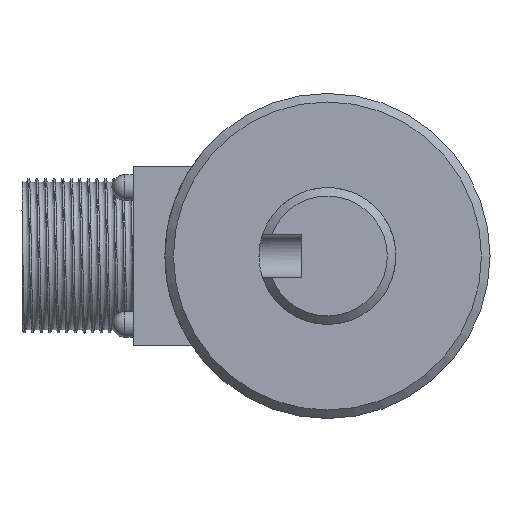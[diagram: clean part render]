
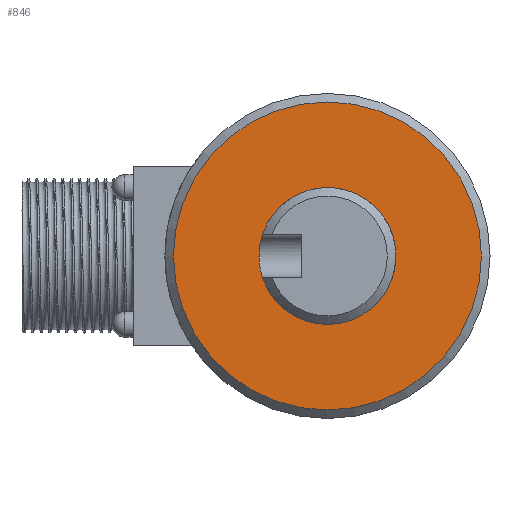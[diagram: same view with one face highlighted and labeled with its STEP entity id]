
A CAD part, left-side view. The second image highlights one B-rep face of the part: STEP entity #846.
In plain terms, the highlighted planar face has unit normal (-1, 0, 0).
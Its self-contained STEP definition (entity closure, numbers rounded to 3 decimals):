
#31=PLANE('',#944);
#48=FACE_BOUND('',#140,.T.);
#89=FACE_OUTER_BOUND('',#139,.T.);
#139=EDGE_LOOP('',(#633));
#140=EDGE_LOOP('',(#634));
#183=CIRCLE('',#934,18.);
#184=CIRCLE('',#936,8.);
#373=VERTEX_POINT('',#2221);
#374=VERTEX_POINT('',#2225);
#470=EDGE_CURVE('',#373,#373,#183,.T.);
#471=EDGE_CURVE('',#374,#374,#184,.T.);
#633=ORIENTED_EDGE('',*,*,#470,.T.);
#634=ORIENTED_EDGE('',*,*,#471,.T.);
#846=ADVANCED_FACE('',(#89,#48),#31,.F.);
#934=AXIS2_PLACEMENT_3D('',#2223,#1078,#1079);
#936=AXIS2_PLACEMENT_3D('',#2226,#1082,#1083);
#944=AXIS2_PLACEMENT_3D('',#2271,#1102,#1103);
#1078=DIRECTION('center_axis',(-1.,0.,0.));
#1079=DIRECTION('ref_axis',(0.,0.,-1.));
#1082=DIRECTION('center_axis',(1.,0.,0.));
#1083=DIRECTION('ref_axis',(0.,0.,-1.));
#1102=DIRECTION('center_axis',(1.,0.,0.));
#1103=DIRECTION('ref_axis',(0.,0.,-1.));
#2221=CARTESIAN_POINT('',(-18.,0.,18.));
#2223=CARTESIAN_POINT('Origin',(-18.,0.,0.));
#2225=CARTESIAN_POINT('',(-18.,0.,8.));
#2226=CARTESIAN_POINT('Origin',(-18.,0.,0.));
#2271=CARTESIAN_POINT('Origin',(-18.,0.,0.));
